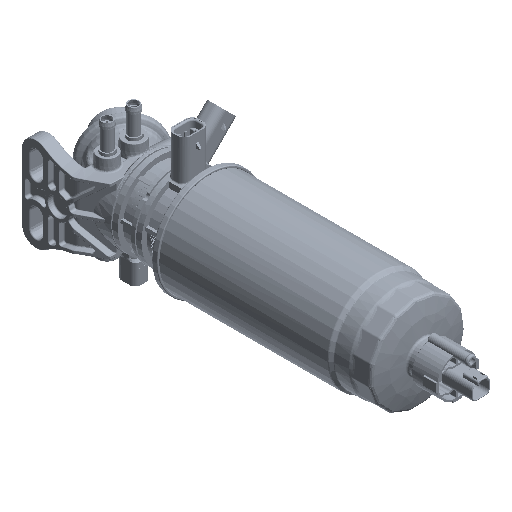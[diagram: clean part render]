
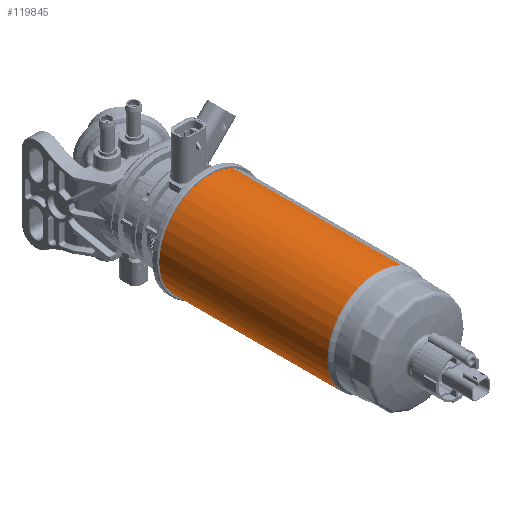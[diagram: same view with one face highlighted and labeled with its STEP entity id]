
A CAD part, isometric view. The second image highlights one B-rep face of the part: STEP entity #119845.
In plain terms, the highlighted cylindrical face has radius 47.4 mm (diameter 94.8 mm), a partial arc.
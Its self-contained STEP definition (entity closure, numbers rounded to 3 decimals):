
#119707=CARTESIAN_POINT('Vertex',(-21.879,-29.5,-42.048)) ;
#119710=CARTESIAN_POINT('Axis2P3D Location',(0.,-29.5,0.)) ;
#119714=CARTESIAN_POINT('Vertex',(-24.185,-29.5,-40.766)) ;
#119737=CARTESIAN_POINT('Axis2P3D Location',(0.,-29.5,0.)) ;
#119741=CARTESIAN_POINT('Vertex',(-24.181,-29.5,40.768)) ;
#119744=CARTESIAN_POINT('Axis2P3D Location',(0.,-29.5,0.)) ;
#119748=CARTESIAN_POINT('Vertex',(21.879,-29.5,42.048)) ;
#119771=CARTESIAN_POINT('Line Origine',(21.879,-106.9,42.048)) ;
#119775=CARTESIAN_POINT('Vertex',(21.879,-187.672,42.048)) ;
#119795=CARTESIAN_POINT('Vertex',(-21.879,-187.672,-42.048)) ;
#119798=CARTESIAN_POINT('Line Origine',(-21.879,-106.9,-42.048)) ;
#119813=CARTESIAN_POINT('Axis2P3D Location',(0.,-106.9,0.)) ;
#119819=CARTESIAN_POINT('Control Point',(-42.048,-187.672,21.879)) ;
#119820=CARTESIAN_POINT('Control Point',(-45.485,-187.672,15.275)) ;
#119821=CARTESIAN_POINT('Control Point',(-47.625,-187.672,7.995)) ;
#119822=CARTESIAN_POINT('Control Point',(-48.29,-187.672,0.38)) ;
#119823=CARTESIAN_POINT('Control Point',(-46.598,-187.672,-14.701)) ;
#119824=CARTESIAN_POINT('Control Point',(-39.329,-187.672,-28.023)) ;
#119825=CARTESIAN_POINT('Control Point',(-34.414,-187.672,-33.878)) ;
#119826=CARTESIAN_POINT('Control Point',(-28.484,-187.672,-38.611)) ;
#119827=CARTESIAN_POINT('Control Point',(-21.879,-187.672,-42.048)) ;
#119828=CARTESIAN_POINT('Vertex',(-42.048,-187.672,21.879)) ;
#119831=CARTESIAN_POINT('Axis2P3D Location',(0.,-187.672,0.)) ;
#119711=DIRECTION('Axis2P3D Direction',(0.,-1.,0.)) ;
#119738=DIRECTION('Axis2P3D Direction',(0.,-1.,0.)) ;
#119745=DIRECTION('Axis2P3D Direction',(0.,-1.,0.)) ;
#119772=DIRECTION('Vector Direction',(0.,-1.,0.)) ;
#119799=DIRECTION('Vector Direction',(0.,-1.,0.)) ;
#119814=DIRECTION('Axis2P3D Direction',(0.,-1.,0.)) ;
#119815=DIRECTION('Axis2P3D XDirection',(0.462,0.,0.887)) ;
#119832=DIRECTION('Axis2P3D Direction',(0.,-1.,0.)) ;
#119712=AXIS2_PLACEMENT_3D('Circle Axis2P3D',#119710,#119711,$) ;
#119739=AXIS2_PLACEMENT_3D('Circle Axis2P3D',#119737,#119738,$) ;
#119746=AXIS2_PLACEMENT_3D('Circle Axis2P3D',#119744,#119745,$) ;
#119816=AXIS2_PLACEMENT_3D('Cylinder Axis2P3D',#119813,#119814,#119815) ;
#119833=AXIS2_PLACEMENT_3D('Circle Axis2P3D',#119831,#119832,$) ;
#119837=ORIENTED_EDGE('',*,*,#119802,.F.) ;
#119838=ORIENTED_EDGE('',*,*,#119830,.F.) ;
#119839=ORIENTED_EDGE('',*,*,#119835,.F.) ;
#119840=ORIENTED_EDGE('',*,*,#119777,.F.) ;
#119841=ORIENTED_EDGE('',*,*,#119750,.T.) ;
#119842=ORIENTED_EDGE('',*,*,#119743,.T.) ;
#119843=ORIENTED_EDGE('',*,*,#119716,.T.) ;
#119773=VECTOR('Line Direction',#119772,1.) ;
#119800=VECTOR('Line Direction',#119799,1.) ;
#119845=ADVANCED_FACE('#Final_Part',(#119844),#119817,.T.) ;
#119818=B_SPLINE_CURVE_WITH_KNOTS('',5,(#119819,#119820,#119821,#119822,#119823,#119824,#119825,#119826,#119827),.UNSPECIFIED.,.F.,.U.,(6,3,6),(-37.228,0.,37.228),.UNSPECIFIED.) ;
#119713=CIRCLE('generated circle',#119712,47.4) ;
#119740=CIRCLE('generated circle',#119739,47.4) ;
#119747=CIRCLE('generated circle',#119746,47.4) ;
#119834=CIRCLE('generated circle',#119833,47.4) ;
#119817=CYLINDRICAL_SURFACE('generated cylinder',#119816,47.4) ;
#119716=EDGE_CURVE('',#119715,#119708,#119713,.T.) ;
#119743=EDGE_CURVE('',#119742,#119715,#119740,.T.) ;
#119750=EDGE_CURVE('',#119749,#119742,#119747,.T.) ;
#119777=EDGE_CURVE('',#119749,#119776,#119774,.T.) ;
#119802=EDGE_CURVE('',#119796,#119708,#119801,.F.) ;
#119830=EDGE_CURVE('',#119829,#119796,#119818,.T.) ;
#119835=EDGE_CURVE('',#119776,#119829,#119834,.T.) ;
#119836=EDGE_LOOP('',(#119837,#119838,#119839,#119840,#119841,#119842,#119843)) ;
#119844=FACE_OUTER_BOUND('',#119836,.T.) ;
#119774=LINE('Line',#119771,#119773) ;
#119801=LINE('Line',#119798,#119800) ;
#119708=VERTEX_POINT('',#119707) ;
#119715=VERTEX_POINT('',#119714) ;
#119742=VERTEX_POINT('',#119741) ;
#119749=VERTEX_POINT('',#119748) ;
#119776=VERTEX_POINT('',#119775) ;
#119796=VERTEX_POINT('',#119795) ;
#119829=VERTEX_POINT('',#119828) ;
